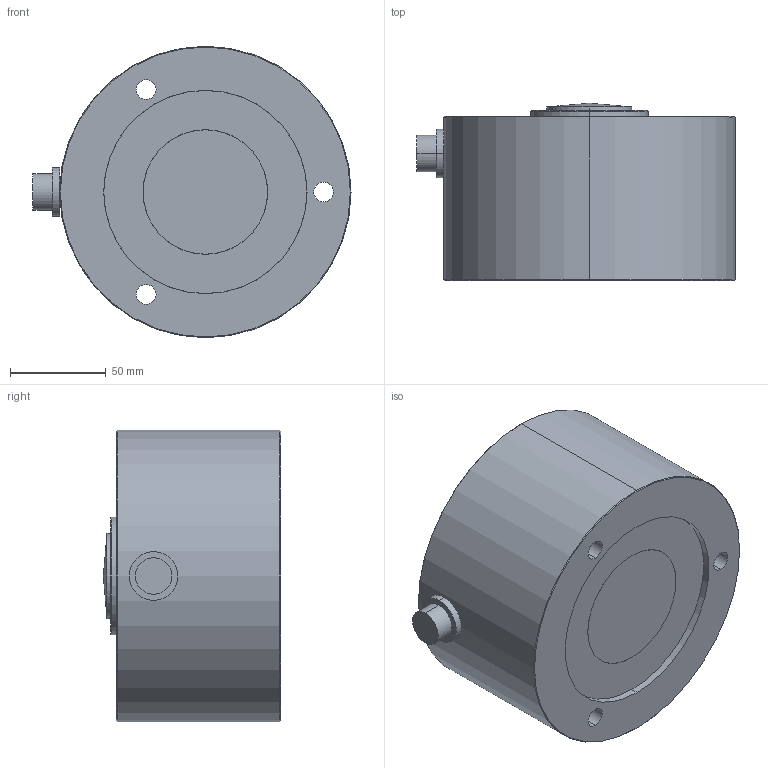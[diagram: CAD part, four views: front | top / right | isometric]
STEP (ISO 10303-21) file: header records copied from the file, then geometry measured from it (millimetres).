
FILE_DESCRIPTION (( 'STEP AP214' ), '1' );
FILE_NAME ('FINAL ASBY SS1772-100KLB.STEP', '2024-08-12T14:39:20', ( '' ), ( '' ), 'SwSTEP 2.0', 'SolidWorks 2008', '' );
FILE_SCHEMA (( 'AUTOMOTIVE_DESIGN' ));
Length unit declared in the file: inch
Products named in the file (1): FINAL ASBY SS1772-100KLB
Bounding box: 166.37 x 92.71 x 152.4 mm (x, y, z)
Volume: 1521665 mm3; surface area: 98131.4 mm2
Topology: 2 solids, 2 shells, 53 faces, 111 edges, 72 vertices
Faces by surface type: cylinder 32, plane 14, cone 6, sphere 1
Entity records: 1474 total; most frequent: DIRECTION 286, CARTESIAN_POINT 232, ORIENTED_EDGE 216, AXIS2_PLACEMENT_3D 124, EDGE_CURVE 108, CIRCLE 70, EDGE_LOOP 70, VERTEX_POINT 70
